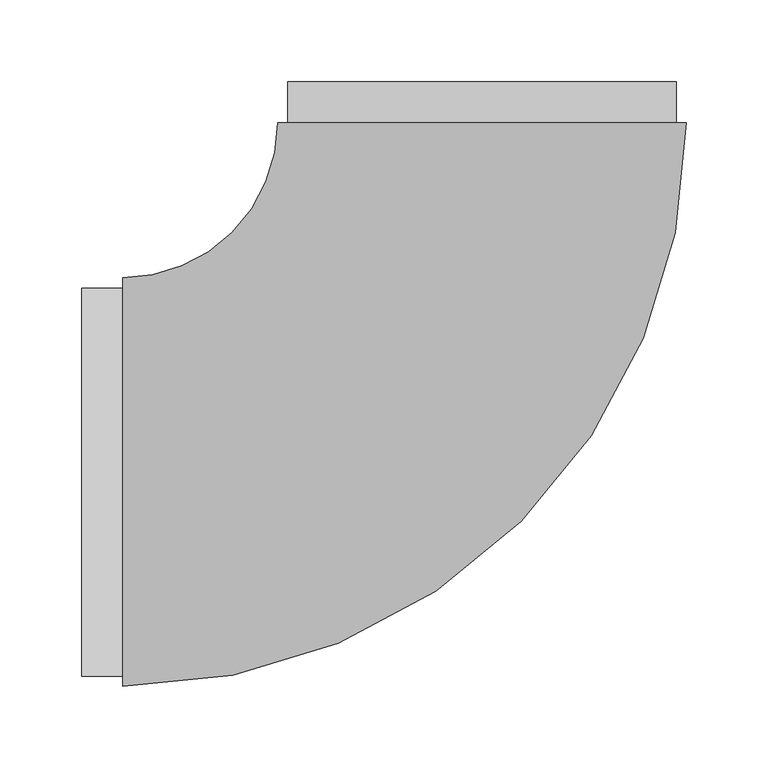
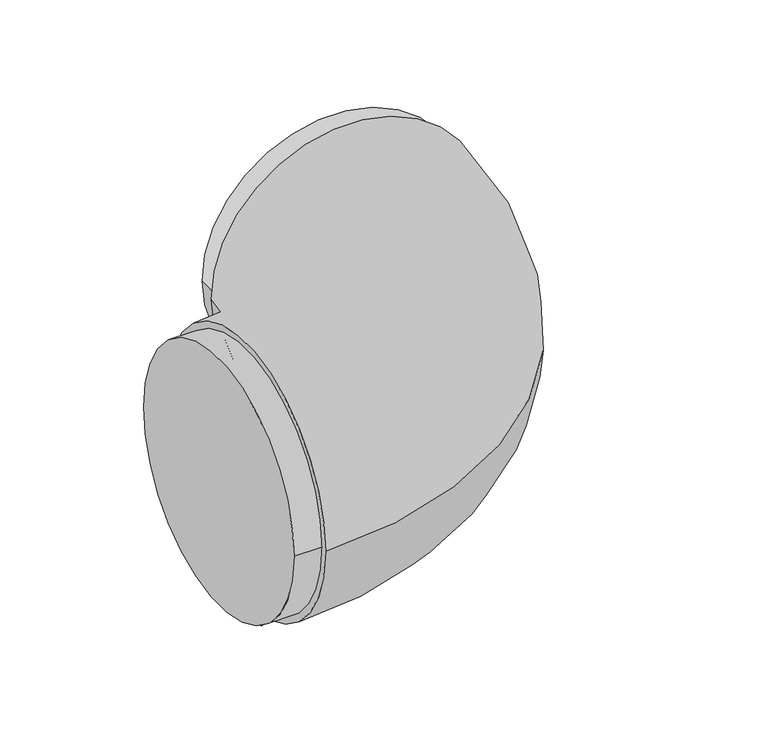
"""IFC4 building model written with IfcOpenShell, lengths in millimetres: pipe fitting geometry, Codo 90º Soldadura a Tope SDR 11 BluePipe : Estándar."""

from ifc_helpers import new_model, si_unit, point, frame, origin, origin_2d, place, context, project, spatial, circle_curve, ellipse_curve, trimmed, segment, composite_curve, outline, extrude, source, transform, mapped, element, save
from ifc_brep_helpers import plane_surface, revolved_surface, advanced_brep


def pipe_fitting_5adb8ecf(model_context):
    return source(origin(), model_context, "Body", "SolidModel", [
        extrude(outline(composite_curve([segment(trimmed(circle_curve(origin_2d(), 118.75), [point((0.0, -118.75))], [point((0.0, 118.75))], False, "CARTESIAN"), True, "CONTINUOUS"), segment(trimmed(circle_curve(origin_2d(), 118.75), [point((0.0, 118.75))], [point((0.0, -118.75))], False, "CARTESIAN"), True, "CONTINUOUS")], self_intersect=False)), frame((0.0, 220.0, 0.0), z_axis=(0.0, 1.0, 0.0), x_axis=(0.0, 0.0, 1.0)), (0.0, 0.0, 1.0), 25.0),
        extrude(outline(composite_curve([segment(trimmed(circle_curve(origin_2d(), 118.75), [point((-118.75, 0.0))], [point((118.75, 0.0))], False, "CARTESIAN"), True, "CONTINUOUS"), segment(trimmed(circle_curve(origin_2d(), 118.75), [point((118.75, 0.0))], [point((-118.75, 0.0))], False, "CARTESIAN"), True, "CONTINUOUS")], self_intersect=False)), frame((-245.0, 0.0, 0.0), z_axis=(1.0, 0.0, 0.0), x_axis=(0.0, 1.0, 0.0)), (0.0, 0.0, 1.0), 25.0),
        advanced_brep(
        [(-220.0, -125.0, 0.0), (-220.0, 125.0, 0.0), (125.0, 220.0, 0.0), (-125.0, 220.0, 0.0)],
        [
            (0, 1, circle_curve(frame((-220.0, 0.0, 0.0), z_axis=(-1.0, 0.0, 0.0), x_axis=(0.0, 1.0, 0.0)), 125.0)),
            (1, 0, circle_curve(frame((-220.0, 0.0, 0.0), z_axis=(-1.0, 0.0, 0.0), x_axis=(0.0, 1.0, 0.0)), 125.0)),
            (2, 3, circle_curve(frame((0.0, 220.0, 0.0), z_axis=(0.0, 1.0, 0.0), x_axis=(-1.0, 0.0, 0.0)), 125.0)),
            (3, 2, circle_curve(frame((0.0, 220.0, 0.0), z_axis=(0.0, 1.0, 0.0), x_axis=(-1.0, 0.0, 0.0)), 125.0)),
            (3, 1, circle_curve(frame((-220.0, 220.0, 0.0), z_axis=(0.0, 0.0, -1.0), x_axis=(0.0, -1.0, 0.0)), 95.0)),
            (0, 2, circle_curve(frame((-220.0, 220.0, 0.0), z_axis=(0.0, 0.0, 1.0), x_axis=(0.0, -1.0, 0.0)), 345.0)),
        ],
        [
            plane_surface(frame((-220.0, 0.0, 0.0), z_axis=(-1.0, 0.0, 0.0), x_axis=(0.0, 0.0, 1.0))),
            plane_surface(frame((0.0, 220.0, 0.0), z_axis=(0.0, 1.0, 0.0), x_axis=(0.0, 0.0, 1.0))),
            revolved_surface(trimmed(ellipse_curve(frame((-220.0, 0.0, 0.0), z_axis=(-1.0, 0.0, 0.0), x_axis=(0.0, 1.0, 0.0)), 125.0, 125.0), [point((-220.0, -125.0, 0.0))], [point((-220.0, 125.0, 0.0))], True, "CARTESIAN"), (-220.0, 220.0, 0.0), (0.0, 0.0, 1.0)),
            revolved_surface(trimmed(ellipse_curve(frame((-220.0, 0.0, 0.0), z_axis=(-1.0, 0.0, 0.0), x_axis=(0.0, 1.0, 0.0)), 125.0, 125.0), [point((-220.0, 125.0, 0.0))], [point((-220.0, -125.0, 0.0))], True, "CARTESIAN"), (-220.0, 220.0, 0.0), (0.0, 0.0, 1.0)),
        ],
        [
            (0, [[1, 2]]),
            (1, [[3, 4]]),
            (2, [[5, -1, 6, -4]]),
            (3, [[-6, -2, -5, -3]]),
        ],
    ),
    ])


if __name__ == "__main__":
    model = new_model("IFC4")
    model_context = context("Model", 3, world=origin())
    ifc_project = project(units=[si_unit("LENGTHUNIT", "METRE", prefix="MILLI")], contexts=[model_context])
    site = spatial("IfcSite", under=ifc_project)
    building = spatial("IfcBuilding", under=site)
    placement = place(None, origin())
    pipe_fitting_shape = pipe_fitting_5adb8ecf(model_context)
    element("IfcPipeFitting", 1, ObjectType="Codo 90º Soldadura a Tope SDR 11 BluePipe : Estándar", at=placement, inside=building, context=model_context, shape_type="MappedRepresentation", body=[
        mapped(pipe_fitting_shape, transform((0.0, 0.0, 0.0), x_axis=(1.0, 0.0, 0.0), y_axis=(0.0, 1.0, 0.0), z_axis=(0.0, 0.0, 1.0))),
    ])
    save(model, "model.ifc")
